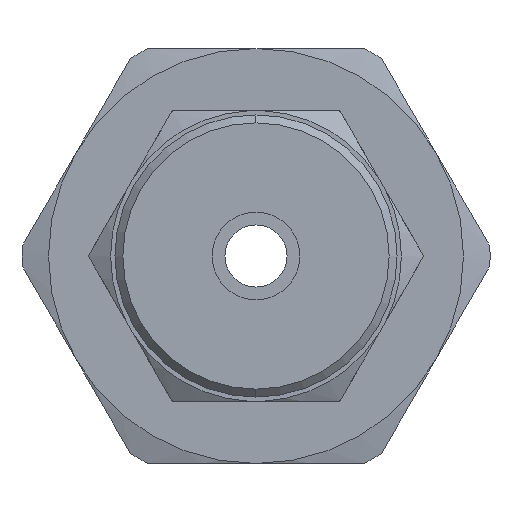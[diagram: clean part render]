
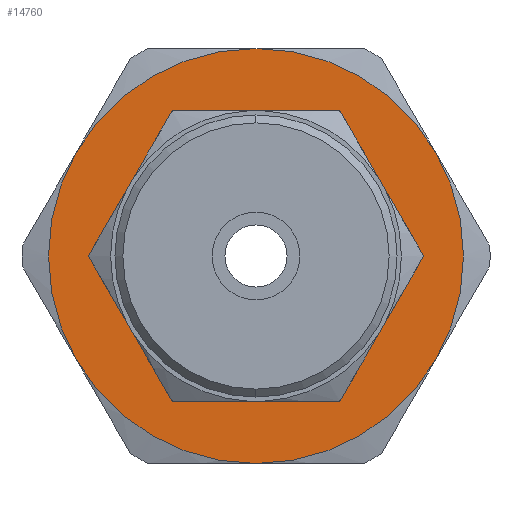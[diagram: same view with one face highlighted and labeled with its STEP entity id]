
A CAD part, left-side view. The second image highlights one B-rep face of the part: STEP entity #14760.
In plain terms, the highlighted planar face has unit normal (-1, 0, 0).
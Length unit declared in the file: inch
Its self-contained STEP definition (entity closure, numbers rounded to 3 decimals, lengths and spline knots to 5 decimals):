
#1839 = CARTESIAN_POINT ( 'NONE',  ( 0.3485, 0., 0. ) ) ;
#1840 = DIRECTION ( 'NONE',  ( 1., 0., 0. ) ) ;
#1841 = DIRECTION ( 'NONE',  ( 0., 0., 1. ) ) ;
#2079 = EDGE_CURVE ( 'NONE', #11985, #11692, #11138, .T. ) ;
#2082 = EDGE_CURVE ( 'NONE', #11745, #10809, #11149, .T. ) ;
#2090 = EDGE_CURVE ( 'NONE', #10809, #11847, #11157, .T. ) ;
#2097 = EDGE_CURVE ( 'NONE', #11847, #10802, #11163, .T. ) ;
#2102 = EDGE_CURVE ( 'NONE', #10802, #12009, #11170, .T. ) ;
#2107 = EDGE_CURVE ( 'NONE', #12009, #11634, #11171, .T. ) ;
#2115 = EDGE_CURVE ( 'NONE', #11634, #11745, #11176, .T. ) ;
#4492 = CARTESIAN_POINT ( 'NONE',  ( 0.3485, 0.1155, 0. ) ) ;
#4497 = FACE_BOUND ( 'NONE', #5437, .T. ) ;
#4500 = FACE_OUTER_BOUND ( 'NONE', #5299, .T. ) ;
#4502 = PLANE ( 'NONE',  #14427 ) ;
#4505 = DIRECTION ( 'NONE',  ( -1., 0., 0. ) ) ;
#4507 = DIRECTION ( 'NONE',  ( 0., 0., 1. ) ) ;
#4519 = CARTESIAN_POINT ( 'NONE',  ( 0.3485, 0.27063, 0.15625 ) ) ;
#4531 = CARTESIAN_POINT ( 'NONE',  ( 0.3485, -0.27063, 0.15625 ) ) ;
#4659 = CARTESIAN_POINT ( 'NONE',  ( 0.3485, 0., -0.3125 ) ) ;
#4775 = CARTESIAN_POINT ( 'NONE',  ( 0.3485, 0., 0.1355 ) ) ;
#4863 = CARTESIAN_POINT ( 'NONE',  ( 0.3485, -0.27063, -0.15625 ) ) ;
#5089 = ORIENTED_EDGE ( 'NONE', *, *, #2115, .T. ) ;
#5090 = ORIENTED_EDGE ( 'NONE', *, *, #2107, .T. ) ;
#5091 = ORIENTED_EDGE ( 'NONE', *, *, #2102, .T. ) ;
#5092 = ORIENTED_EDGE ( 'NONE', *, *, #2097, .T. ) ;
#5093 = ORIENTED_EDGE ( 'NONE', *, *, #2090, .T. ) ;
#5094 = ORIENTED_EDGE ( 'NONE', *, *, #2082, .T. ) ;
#5095 = ORIENTED_EDGE ( 'NONE', *, *, #2079, .T. ) ;
#5096 = ORIENTED_EDGE ( 'NONE', *, *, #14392, .T. ) ;
#5299 = EDGE_LOOP ( 'NONE', ( #5094, #5093, #5092, #5091, #5090, #5089 ) ) ;
#5437 = EDGE_LOOP ( 'NONE', ( #5096, #5095 ) ) ;
#7688 = CIRCLE ( 'NONE', #7705, 0.1355 ) ;
#7705 = AXIS2_PLACEMENT_3D ( 'NONE', #1839, #1840, #1841 ) ;
#8584 = CARTESIAN_POINT ( 'NONE',  ( 0.3485, 0., 0. ) ) ;
#8585 = DIRECTION ( 'NONE',  ( 1., 0., 0. ) ) ;
#8586 = DIRECTION ( 'NONE',  ( 0., 0., 1. ) ) ;
#8592 = CARTESIAN_POINT ( 'NONE',  ( 0.3485, 0., 0. ) ) ;
#8593 = DIRECTION ( 'NONE',  ( -1., 0., 0. ) ) ;
#8594 = DIRECTION ( 'NONE',  ( 0., 0., 1. ) ) ;
#8619 = CARTESIAN_POINT ( 'NONE',  ( 0.3485, 0., 0. ) ) ;
#8620 = DIRECTION ( 'NONE',  ( -1., 0., 0. ) ) ;
#8621 = DIRECTION ( 'NONE',  ( 0., 0., 1. ) ) ;
#8643 = CARTESIAN_POINT ( 'NONE',  ( 0.3485, 0., 0. ) ) ;
#8644 = DIRECTION ( 'NONE',  ( -1., 0., 0. ) ) ;
#8645 = DIRECTION ( 'NONE',  ( 0., 0., 1. ) ) ;
#8663 = CARTESIAN_POINT ( 'NONE',  ( 0.3485, 0., 0. ) ) ;
#8664 = DIRECTION ( 'NONE',  ( -1., 0., 0. ) ) ;
#8665 = DIRECTION ( 'NONE',  ( 0., 0., 1. ) ) ;
#8681 = CARTESIAN_POINT ( 'NONE',  ( 0.3485, 0., 0. ) ) ;
#8682 = DIRECTION ( 'NONE',  ( -1., 0., 0. ) ) ;
#8683 = DIRECTION ( 'NONE',  ( 0., 0., 1. ) ) ;
#8704 = CARTESIAN_POINT ( 'NONE',  ( 0.3485, 0., 0. ) ) ;
#8705 = DIRECTION ( 'NONE',  ( -1., 0., 0. ) ) ;
#8706 = DIRECTION ( 'NONE',  ( 0., 0., 1. ) ) ;
#10802 = VERTEX_POINT ( 'NONE', #4519 ) ;
#10809 = VERTEX_POINT ( 'NONE', #4531 ) ;
#11138 = CIRCLE ( 'NONE', #11147, 0.1355 ) ;
#11147 = AXIS2_PLACEMENT_3D ( 'NONE', #8584, #8585, #8586 ) ;
#11149 = CIRCLE ( 'NONE', #11152, 0.3125 ) ;
#11152 = AXIS2_PLACEMENT_3D ( 'NONE', #8592, #8593, #8594 ) ;
#11157 = CIRCLE ( 'NONE', #11159, 0.3125 ) ;
#11158 = AXIS2_PLACEMENT_3D ( 'NONE', #8663, #8664, #8665 ) ;
#11159 = AXIS2_PLACEMENT_3D ( 'NONE', #8619, #8620, #8621 ) ;
#11163 = CIRCLE ( 'NONE', #11166, 0.3125 ) ;
#11166 = AXIS2_PLACEMENT_3D ( 'NONE', #8643, #8644, #8645 ) ;
#11170 = CIRCLE ( 'NONE', #11158, 0.3125 ) ;
#11171 = CIRCLE ( 'NONE', #11173, 0.3125 ) ;
#11173 = AXIS2_PLACEMENT_3D ( 'NONE', #8681, #8682, #8683 ) ;
#11176 = CIRCLE ( 'NONE', #11183, 0.3125 ) ;
#11183 = AXIS2_PLACEMENT_3D ( 'NONE', #8704, #8705, #8706 ) ;
#11634 = VERTEX_POINT ( 'NONE', #4659 ) ;
#11692 = VERTEX_POINT ( 'NONE', #4775 ) ;
#11745 = VERTEX_POINT ( 'NONE', #4863 ) ;
#11847 = VERTEX_POINT ( 'NONE', #13588 ) ;
#11985 = VERTEX_POINT ( 'NONE', #13649 ) ;
#12009 = VERTEX_POINT ( 'NONE', #13661 ) ;
#13588 = CARTESIAN_POINT ( 'NONE',  ( 0.3485, 0., 0.3125 ) ) ;
#13649 = CARTESIAN_POINT ( 'NONE',  ( 0.3485, 0., -0.1355 ) ) ;
#13661 = CARTESIAN_POINT ( 'NONE',  ( 0.3485, 0.27063, -0.15625 ) ) ;
#14392 = EDGE_CURVE ( 'NONE', #11692, #11985, #7688, .T. ) ;
#14427 = AXIS2_PLACEMENT_3D ( 'NONE', #4492, #4505, #4507 ) ;
#14760 = ADVANCED_FACE ( 'NONE', ( #4497, #4500 ), #4502, .T. ) ;
